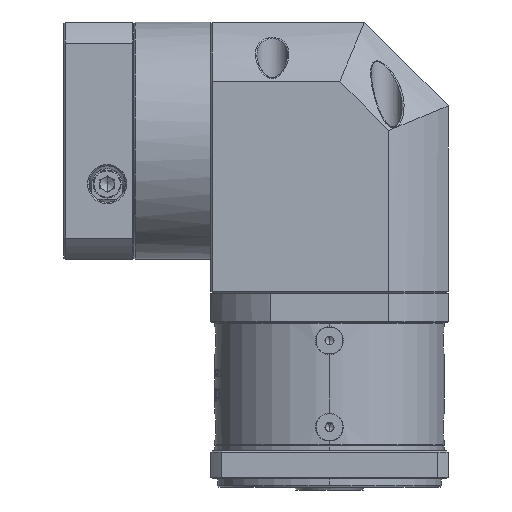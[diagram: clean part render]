
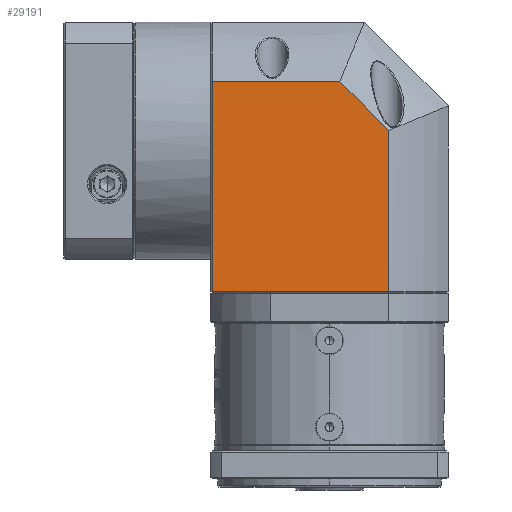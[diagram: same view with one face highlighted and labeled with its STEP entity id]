
A CAD part, left-side view. The second image highlights one B-rep face of the part: STEP entity #29191.
In plain terms, the highlighted planar face has unit normal (-1, 0, 0).
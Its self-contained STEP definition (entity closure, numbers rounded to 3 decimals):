
#1101 = VERTEX_POINT ( 'NONE', #4923 ) ;
#4923 = CARTESIAN_POINT ( 'NONE',  ( -129.934, 75.493, 108.651 ) ) ;
#4925 = LINE ( 'NONE', #14545, #106189 ) ;
#14545 = CARTESIAN_POINT ( 'NONE',  ( -129.934, 75.993, 108.651 ) ) ;
#20231 = DIRECTION ( 'NONE',  ( 0., -0.707, -0.707 ) ) ;
#27176 = LINE ( 'NONE', #129441, #89413 ) ;
#27555 = LINE ( 'NONE', #110749, #97875 ) ;
#29191 = ADVANCED_FACE ( 'NONE', ( #152148 ), #143675, .F. ) ;
#29265 = LINE ( 'NONE', #99385, #99634 ) ;
#31550 = DIRECTION ( 'NONE',  ( 0., 0., -1. ) ) ;
#33549 = EDGE_CURVE ( 'NONE', #1101, #100556, #4925, .T. ) ;
#38648 = CARTESIAN_POINT ( 'NONE',  ( -129.934, 75.493, 33.438 ) ) ;
#44771 = ORIENTED_EDGE ( 'NONE', *, *, #76107, .F. ) ;
#51092 = EDGE_CURVE ( 'NONE', #118904, #111913, #72383, .T. ) ;
#51836 = DIRECTION ( 'NONE',  ( 1., 0., 0. ) ) ;
#63205 = ORIENTED_EDGE ( 'NONE', *, *, #51092, .T. ) ;
#64174 = DIRECTION ( 'NONE',  ( 0., 0., 1. ) ) ;
#66356 = CARTESIAN_POINT ( 'NONE',  ( -129.934, 29.81, 108.651 ) ) ;
#68256 = VECTOR ( 'NONE', #169042, 1000. ) ;
#72383 = LINE ( 'NONE', #155664, #68256 ) ;
#76107 = EDGE_CURVE ( 'NONE', #118904, #1101, #27176, .T. ) ;
#89413 = VECTOR ( 'NONE', #64174, 1000. ) ;
#97770 = ORIENTED_EDGE ( 'NONE', *, *, #135781, .F. ) ;
#97875 = VECTOR ( 'NONE', #31550, 1000. ) ;
#99385 = CARTESIAN_POINT ( 'NONE',  ( -129.934, 29.81, 108.651 ) ) ;
#99634 = VECTOR ( 'NONE', #20231, 1000. ) ;
#100556 = VERTEX_POINT ( 'NONE', #66356 ) ;
#106189 = VECTOR ( 'NONE', #106926, 1000. ) ;
#106926 = DIRECTION ( 'NONE',  ( 0., -1., 0. ) ) ;
#108137 = ORIENTED_EDGE ( 'NONE', *, *, #115629, .F. ) ;
#110749 = CARTESIAN_POINT ( 'NONE',  ( -129.934, 12.28, 133.438 ) ) ;
#111913 = VERTEX_POINT ( 'NONE', #135465 ) ;
#115629 = EDGE_CURVE ( 'NONE', #100556, #123409, #29265, .T. ) ;
#117556 = EDGE_LOOP ( 'NONE', ( #63205, #97770, #108137, #143439, #44771 ) ) ;
#118904 = VERTEX_POINT ( 'NONE', #38648 ) ;
#122596 = AXIS2_PLACEMENT_3D ( 'NONE', #131023, #51836, #144248 ) ;
#123409 = VERTEX_POINT ( 'NONE', #135695 ) ;
#129441 = CARTESIAN_POINT ( 'NONE',  ( -129.934, 75.493, 129.938 ) ) ;
#131023 = CARTESIAN_POINT ( 'NONE',  ( -129.934, 75.993, 129.938 ) ) ;
#135465 = CARTESIAN_POINT ( 'NONE',  ( -129.934, 12.28, 33.438 ) ) ;
#135695 = CARTESIAN_POINT ( 'NONE',  ( -129.934, 12.28, 91.121 ) ) ;
#135781 = EDGE_CURVE ( 'NONE', #123409, #111913, #27555, .T. ) ;
#143439 = ORIENTED_EDGE ( 'NONE', *, *, #33549, .F. ) ;
#143675 = PLANE ( 'NONE',  #122596 ) ;
#144248 = DIRECTION ( 'NONE',  ( 0., 1., 0. ) ) ;
#152148 = FACE_OUTER_BOUND ( 'NONE', #117556, .T. ) ;
#155664 = CARTESIAN_POINT ( 'NONE',  ( -129.934, 75.993, 33.438 ) ) ;
#169042 = DIRECTION ( 'NONE',  ( 0., -1., 0. ) ) ;
